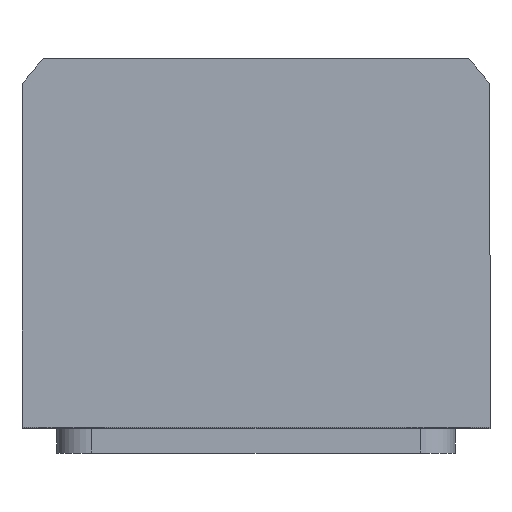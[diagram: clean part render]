
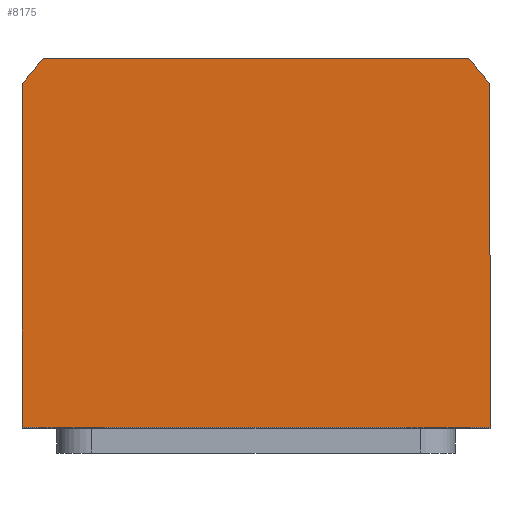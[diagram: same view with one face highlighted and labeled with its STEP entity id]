
A CAD part, top view. The second image highlights one B-rep face of the part: STEP entity #8175.
In plain terms, the highlighted planar face has unit normal (0, 0, 1).
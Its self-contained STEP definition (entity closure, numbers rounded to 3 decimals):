
#196 = EDGE_CURVE ( 'NONE', #7777, #3845, #7349, .T. ) ;
#1100 = DIRECTION ( 'NONE',  ( 0., 0., 1. ) ) ;
#1172 = CARTESIAN_POINT ( 'NONE',  ( 0., 0., 80. ) ) ;
#1392 = DIRECTION ( 'NONE',  ( 1., 0., 0. ) ) ;
#2238 = CARTESIAN_POINT ( 'NONE',  ( -42.688, 40., 80. ) ) ;
#2369 = VERTEX_POINT ( 'NONE', #7480 ) ;
#2411 = CARTESIAN_POINT ( 'NONE',  ( 47., -34., 80. ) ) ;
#2509 = CARTESIAN_POINT ( 'NONE',  ( 42.688, 40., 80. ) ) ;
#2620 = CARTESIAN_POINT ( 'NONE',  ( -47., 34.832, 80. ) ) ;
#2716 = DIRECTION ( 'NONE',  ( 0., -1., 0. ) ) ;
#2842 = EDGE_CURVE ( 'NONE', #9798, #5689, #6442, .T. ) ;
#2867 = DIRECTION ( 'NONE',  ( 0., 0., 1. ) ) ;
#2921 = AXIS2_PLACEMENT_3D ( 'NONE', #1172, #2867, #2938 ) ;
#2938 = DIRECTION ( 'NONE',  ( 1., 0., 0. ) ) ;
#2973 = LINE ( 'NONE', #10020, #5327 ) ;
#3045 = DIRECTION ( 'NONE',  ( -1., 0., 0. ) ) ;
#3480 = EDGE_CURVE ( 'NONE', #5689, #2369, #6218, .T. ) ;
#3845 = VERTEX_POINT ( 'NONE', #4773 ) ;
#3913 = PLANE ( 'NONE',  #2921 ) ;
#4149 = CIRCLE ( 'NONE', #8183, 58.5 ) ;
#4475 = LINE ( 'NONE', #5087, #10589 ) ;
#4524 = DIRECTION ( 'NONE',  ( 1., 0., 0. ) ) ;
#4540 = CARTESIAN_POINT ( 'NONE',  ( 0., 0., 80. ) ) ;
#4555 = CARTESIAN_POINT ( 'NONE',  ( -47., -34., 80. ) ) ;
#4602 = CARTESIAN_POINT ( 'NONE',  ( 0., 0., 80. ) ) ;
#4773 = CARTESIAN_POINT ( 'NONE',  ( -47., -34., 80. ) ) ;
#4838 = ORIENTED_EDGE ( 'NONE', *, *, #196, .T. ) ;
#4931 = EDGE_LOOP ( 'NONE', ( #6653, #8704, #8310, #10897, #6776, #4838 ) ) ;
#5087 = CARTESIAN_POINT ( 'NONE',  ( 47., 34.832, 80. ) ) ;
#5327 = VECTOR ( 'NONE', #1392, 1000. ) ;
#5398 = CARTESIAN_POINT ( 'NONE',  ( 47., 34.832, 80. ) ) ;
#5689 = VERTEX_POINT ( 'NONE', #2509 ) ;
#5769 = EDGE_CURVE ( 'NONE', #2369, #7777, #4149, .T. ) ;
#6218 = LINE ( 'NONE', #2238, #8149 ) ;
#6442 = CIRCLE ( 'NONE', #10577, 58.5 ) ;
#6653 = ORIENTED_EDGE ( 'NONE', *, *, #7216, .T. ) ;
#6663 = VERTEX_POINT ( 'NONE', #2411 ) ;
#6776 = ORIENTED_EDGE ( 'NONE', *, *, #5769, .T. ) ;
#7216 = EDGE_CURVE ( 'NONE', #3845, #6663, #2973, .T. ) ;
#7349 = LINE ( 'NONE', #4555, #9114 ) ;
#7480 = CARTESIAN_POINT ( 'NONE',  ( -42.688, 40., 80. ) ) ;
#7777 = VERTEX_POINT ( 'NONE', #2620 ) ;
#8149 = VECTOR ( 'NONE', #3045, 1000. ) ;
#8175 = ADVANCED_FACE ( 'NONE', ( #8992 ), #3913, .T. ) ;
#8183 = AXIS2_PLACEMENT_3D ( 'NONE', #4540, #1100, #9653 ) ;
#8310 = ORIENTED_EDGE ( 'NONE', *, *, #2842, .T. ) ;
#8500 = DIRECTION ( 'NONE',  ( 0., 1., 0. ) ) ;
#8704 = ORIENTED_EDGE ( 'NONE', *, *, #9422, .T. ) ;
#8992 = FACE_OUTER_BOUND ( 'NONE', #4931, .T. ) ;
#9114 = VECTOR ( 'NONE', #2716, 1000. ) ;
#9422 = EDGE_CURVE ( 'NONE', #6663, #9798, #4475, .T. ) ;
#9653 = DIRECTION ( 'NONE',  ( 1., 0., 0. ) ) ;
#9798 = VERTEX_POINT ( 'NONE', #5398 ) ;
#10020 = CARTESIAN_POINT ( 'NONE',  ( 47., -34., 80. ) ) ;
#10577 = AXIS2_PLACEMENT_3D ( 'NONE', #4602, #10672, #4524 ) ;
#10589 = VECTOR ( 'NONE', #8500, 1000. ) ;
#10672 = DIRECTION ( 'NONE',  ( 0., 0., 1. ) ) ;
#10897 = ORIENTED_EDGE ( 'NONE', *, *, #3480, .T. ) ;
